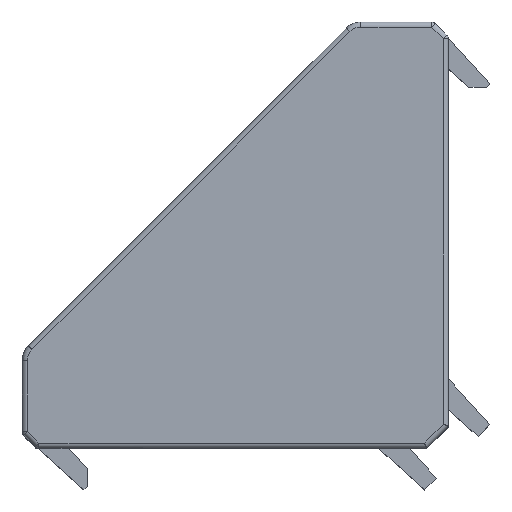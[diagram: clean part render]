
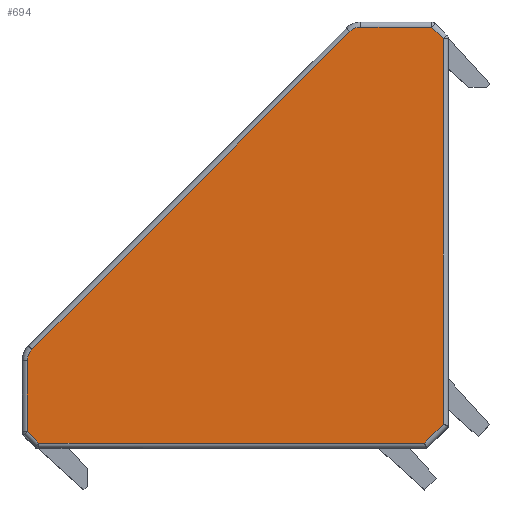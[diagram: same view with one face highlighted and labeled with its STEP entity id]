
A CAD part, top view. The second image highlights one B-rep face of the part: STEP entity #694.
In plain terms, the highlighted planar face has unit normal (0, 0, 1).
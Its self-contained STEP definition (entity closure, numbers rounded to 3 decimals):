
#694=ADVANCED_FACE('NONE',(#1402),#1403,.T.);
#1402=FACE_OUTER_BOUND('',#2502,.T.);
#1403=PLANE('',#2503);
#2502=EDGE_LOOP('',(#4445,#4446,#4447,#4448,#4449,#4450,#4451,#4452,#4453,#4454));
#2503=AXIS2_PLACEMENT_3D('',#4455,#4456,#4457);
#4445=ORIENTED_EDGE('',*,*,#4722,.T.);
#4446=ORIENTED_EDGE('',*,*,#4600,.T.);
#4447=ORIENTED_EDGE('',*,*,#4971,.T.);
#4448=ORIENTED_EDGE('',*,*,#4694,.T.);
#4449=ORIENTED_EDGE('',*,*,#5142,.T.);
#4450=ORIENTED_EDGE('',*,*,#4967,.T.);
#4451=ORIENTED_EDGE('',*,*,#4753,.T.);
#4452=ORIENTED_EDGE('',*,*,#4951,.T.);
#4453=ORIENTED_EDGE('',*,*,#4515,.T.);
#4454=ORIENTED_EDGE('',*,*,#5011,.T.);
#4455=CARTESIAN_POINT('',(-39.3,8.5,21.0));
#4456=DIRECTION('',(0.0,0.0,1.0));
#4457=DIRECTION('',(1.0,-0.0,0.0));
#4515=EDGE_CURVE('NONE',#5310,#5311,#5312,.T.);
#4600=EDGE_CURVE('NONE',#5458,#5463,#5465,.T.);
#4694=EDGE_CURVE('NONE',#5626,#5624,#5627,.T.);
#4722=EDGE_CURVE('NONE',#5667,#5458,#5671,.T.);
#4753=EDGE_CURVE('NONE',#5719,#5721,#5723,.T.);
#4951=EDGE_CURVE('NONE',#5721,#5310,#6026,.T.);
#4967=EDGE_CURVE('NONE',#6046,#5719,#6047,.T.);
#4971=EDGE_CURVE('NONE',#5463,#5626,#6051,.T.);
#5011=EDGE_CURVE('NONE',#5311,#5667,#6100,.T.);
#5142=EDGE_CURVE('NONE',#5624,#6046,#6263,.T.);
#5310=VERTEX_POINT('NONE',#6451);
#5311=VERTEX_POINT('NONE',#6452);
#5312=LINE('',#6453,#6454);
#5458=VERTEX_POINT('NONE',#6732);
#5463=VERTEX_POINT('NONE',#6738);
#5465=LINE('',#6740,#6741);
#5624=VERTEX_POINT('NONE',#7043);
#5626=VERTEX_POINT('NONE',#7045);
#5627=LINE('',#7046,#7047);
#5667=VERTEX_POINT('NONE',#7141);
#5671=CIRCLE('',#7145,1.5);
#5719=VERTEX_POINT('NONE',#7230);
#5721=VERTEX_POINT('NONE',#7242);
#5723=LINE('',#7254,#7255);
#6026=LINE('',#7869,#7870);
#6046=VERTEX_POINT('NONE',#7894);
#6047=LINE('',#7895,#7896);
#6051=CIRCLE('',#7901,1.5);
#6100=LINE('',#7980,#7981);
#6263=LINE('',#8333,#8334);
#6451=CARTESIAN_POINT('',(-0.5,39.679,21.0));
#6452=CARTESIAN_POINT('',(-1.621,40.8,21.0));
#6453=CARTESIAN_POINT('',(-1.768,40.946,21.0));
#6454=VECTOR('',#8720,1000.0);
#6732=CARTESIAN_POINT('',(-9.561,40.361,21.0));
#6738=CARTESIAN_POINT('',(-40.361,9.561,21.0));
#6740=CARTESIAN_POINT('',(-40.361,9.561,21.0));
#6741=VECTOR('',#8814,1000.0);
#7043=CARTESIAN_POINT('',(-40.8,1.621,21.0));
#7045=CARTESIAN_POINT('',(-40.8,8.5,21.0));
#7046=CARTESIAN_POINT('',(-40.8,1.414,21.0));
#7047=VECTOR('',#8930,1000.0);
#7141=CARTESIAN_POINT('',(-8.5,40.8,21.0));
#7145=AXIS2_PLACEMENT_3D('',#8957,#8958,#8959);
#7230=CARTESIAN_POINT('',(-2.328,0.5,21.0));
#7242=CARTESIAN_POINT('',(-0.5,2.328,21.0));
#7254=CARTESIAN_POINT('',(-0.354,2.475,21.0));
#7255=VECTOR('',#8989,1000.0);
#7869=CARTESIAN_POINT('',(-0.5,39.886,21.0));
#7870=VECTOR('',#9205,1000.0);
#7894=CARTESIAN_POINT('',(-39.679,0.5,21.0));
#7895=CARTESIAN_POINT('',(-2.121,0.5,21.0));
#7896=VECTOR('',#9228,1000.0);
#7901=AXIS2_PLACEMENT_3D('',#9233,#9234,#9235);
#7980=CARTESIAN_POINT('',(-8.5,40.8,21.0));
#7981=VECTOR('',#9274,1000.0);
#8333=CARTESIAN_POINT('',(-39.532,0.354,21.0));
#8334=VECTOR('',#9395,1000.0);
#8720=DIRECTION('',(-0.707,0.707,0.0));
#8814=DIRECTION('',(-0.707,-0.707,0.0));
#8930=DIRECTION('',(0.0,-1.0,0.0));
#8957=CARTESIAN_POINT('',(-8.5,39.3,21.0));
#8958=DIRECTION('',(0.0,0.0,1.0));
#8959=DIRECTION('',(1.0,0.0,0.0));
#8989=DIRECTION('',(0.707,0.707,0.0));
#9205=DIRECTION('',(0.,1.0,0.0));
#9228=DIRECTION('',(1.0,0.,0.0));
#9233=CARTESIAN_POINT('',(-39.3,8.5,21.0));
#9234=DIRECTION('',(0.0,0.0,1.0));
#9235=DIRECTION('',(1.0,0.0,0.0));
#9274=DIRECTION('',(-1.0,0.0,0.0));
#9395=DIRECTION('',(0.707,-0.707,0.0));
